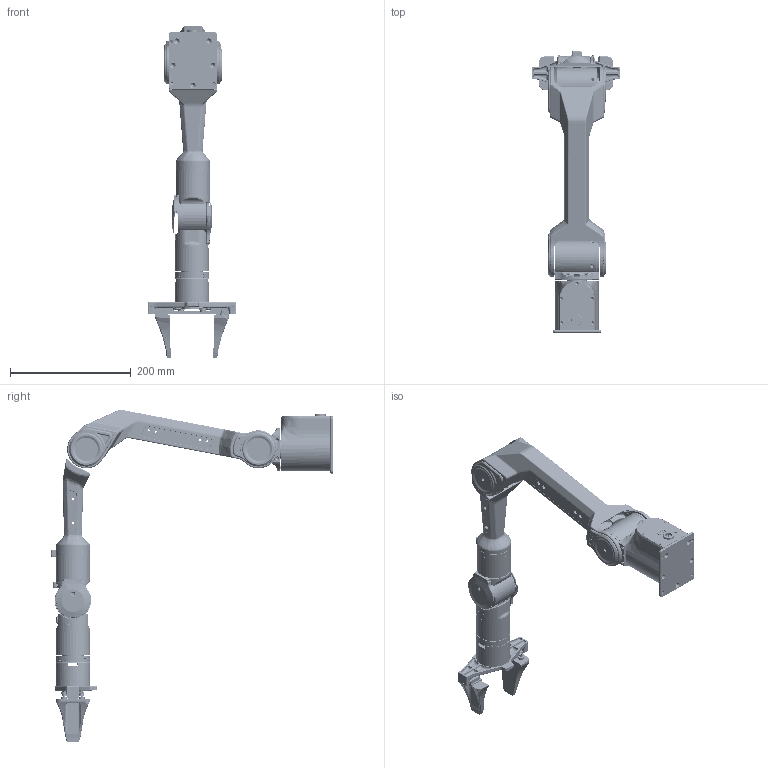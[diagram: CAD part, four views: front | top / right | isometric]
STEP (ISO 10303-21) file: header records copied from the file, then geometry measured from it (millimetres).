
FILE_DESCRIPTION (( 'STEP AP203' ), '1' );
FILE_NAME ('PIPER 標蛈 勤俋0820.STEP', '2026-04-07T06:08:31', ( '' ), ( '' ), 'SwSTEP 2.0', 'SolidWorks 2019', '' );
FILE_SCHEMA (( 'CONFIG_CONTROL_DESIGN' ));
Length unit declared in the file: millimetre
Products named in the file (58): MGN7C.STEP; M-JXB2-130112-A-1; 4310 ________Ver.B 3D.STEP; F4.9M.P5 4.9.4________.STEP; 4310 熬厒萇儂Ver.B 3D20231203-1; 20.27.4楊擘粣創-1; M-JXB2-130102-D.STEP; M-JXB2-130063-E-1; M-JXB2-130100-D.STEP; 4310 熬厒萇儂Ver.B 3D20231203-3; M-JXB2-130074-D; M-JXB2-130108-D-1; M-JXB2-130042-D-1; M-JXB2-130090-B; M-JXB2-130103-D.STEP; M-JXB2-130066-F-1; 偌瑩啣1.5-1; M-JXB2-130086-D; 壽誹萇儂V1.6-2; ____________4.6.m3.4.STEP; M-JXB2-130062-E-1; hexagon socket countersunk head screws gb_GB_FASTENER_SCREWS_HSCHS M3X16-N.STEP; M-JXB2-130089-D; M-JXB2-130044-E-1; M-JXB2-130065-F-1; M-JXB2-130041-E-1; M-JXB2-130113-B-1; 翋諷.1.8-1; M-JXB2-130094-B-1; M-JXB2-130045-E-1; PIPER 標蛈 勤俋0820; 壽誹萇儂V1.6-1; M-JXB2-130056-D-1; 蛈標勤俋1202; M-JXB2-130040-G-1; 4310 熬厒萇儂Ver.B 3D-1; M3.8_GB_FASTENER_SCREWS_HSCHS M3X16-N.STEP; M-JXB2-130088-B; MGN7.145.STEP; 4310 ________Ver.B 3D20231203.STEP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
Assembly tree (86 placements, depth 5):
  PIPER 標蛈 勤俋0820
    壽誹萇儂V1.6
      M-JXB2-130089-D
      M-JXB2-130074-D
      M-JXB2-130086-D
      M-JXB2-130073-C
      M-JXB2-130088-B
      M-JXB2-130090-B
    壽誹萇儂V1.6-1
      M-JXB2-130089-D
      M-JXB2-130074-D
      M-JXB2-130086-D
      M-JXB2-130073-C
      M-JXB2-130088-B
      M-JXB2-130090-B
    4310 熬厒萇儂Ver.B 3D20231203-1
      4310 熬厒萇儂Ver.B 3D-1
    4310 熬厒萇儂Ver.B 3D20231203-2
      4310 熬厒萇儂Ver.B 3D-1
      4310 减速电机驱动板盖 Ver.B-1
    4310 熬厒萇儂Ver.B 3D20231203-3
      4310 熬厒萇儂Ver.B 3D-1
    壽誹萇儂V1.6-2
      M-JXB2-130089-D
      M-JXB2-130074-D
      M-JXB2-130086-D
      M-JXB2-130073-C
      M-JXB2-130088-B
      M-JXB2-130090-B
    M-JXB2-130040-G-1
    M-JXB2-130043-F-1
    M-JXB2-130044-E-1
    M-JXB2-130045-E-1
    M-JXB2-130056-D-1
    M-JXB2-130059-E-1
    M-JXB2-130062-E-1
    M-JXB2-130063-E-1
    12偌瑩
    M-JXB2-130094-B-1
    M-JXB2-130095-A-1
    M-JXB2-130041-E-1
    翋諷.1.8-1
    囀嘐岆1B4郋
    M-JXB2-130042-D-1
    脣釱-1
    偌瑩啣1.5-1
    M-JXB2-130112-A-1
    M-JXB2-130054-F-1
    M-JXB2-130065-F-1
    M-JXB2-130064-F-1
    M-JXB2-130066-F-1
    M-JXB2-130108-D-1
    M-JXB2-130113-B-1
    M-JXB2-130109-A-1
    M-JXB2-130061-E-1
    M-JXB2-130114-A-1
    20.27.4楊擘粣創-1  x2
    蛈標勤俋1202
      蛈標勤俋1202.STEP
        4310 ________Ver.B 3D20231203.STEP
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Bounding box: 145 x 466.01 x 549.34 mm (x, y, z)
Volume: 1208716.3 mm3; surface area: 672953.7 mm2
Topology: 80 solids, 82 shells, 11636 faces, 29361 edges, 17534 vertices
Faces by surface type: cylinder 4320, plane 2811, cone 2134, bspline 1615, torus 588, sphere 168
Entity records: 424029 total; most frequent: CARTESIAN_POINT 204137, ORIENTED_EDGE 46098, DIRECTION 42768, EDGE_CURVE 23049, AXIS2_PLACEMENT_3D 16499, VERTEX_POINT 14086, EDGE_LOOP 10151, VECTOR 9770
